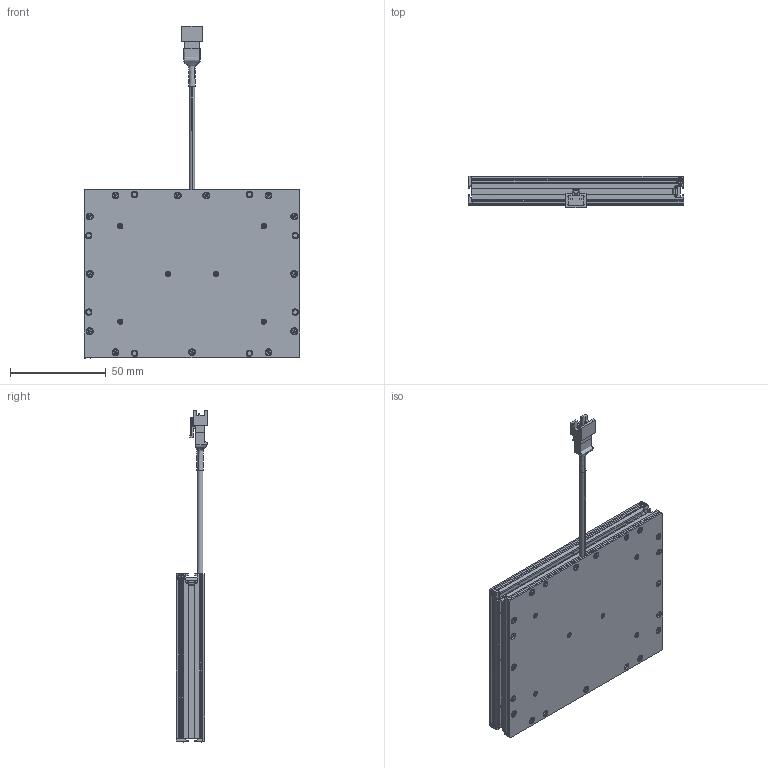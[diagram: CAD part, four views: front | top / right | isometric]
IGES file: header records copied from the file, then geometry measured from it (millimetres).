
Start section: SolidWorks IGES file using analytic representation for surfaces
Global section: file name: C:\Users\user\Downloads\TEMP_STEP\VDF-10075_Drawing_L1181A-A00100.IGS; native system: SolidWorks 2018; preprocessor: SolidWorks 2018; author: user; date: 231221.083251; units: millimetre
Bounding box: 113 x 16.55 x 173.69 mm (x, y, z)
Surface area: 49822.6 mm2 (no closed solid volume)
Topology: 0 solids, 0 shells, 772 faces, 8821 edges, 8821 vertices
Faces by surface type: bspline 521, revolution 251
